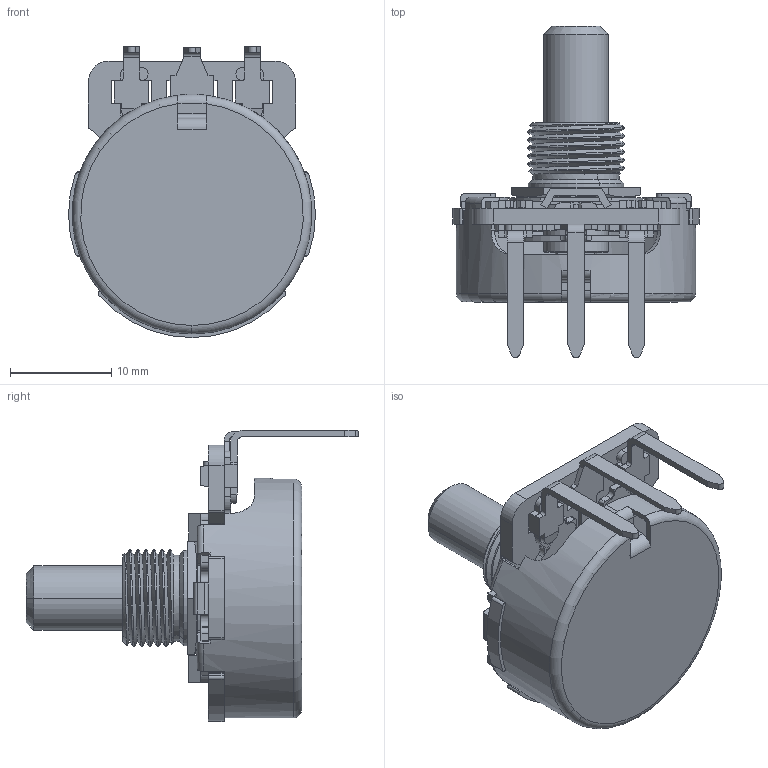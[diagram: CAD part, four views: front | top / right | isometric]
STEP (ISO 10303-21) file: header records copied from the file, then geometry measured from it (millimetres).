
FILE_DESCRIPTION (( 'STEP AP214' ), '1' );
FILE_NAME ('450V220R103A1A5.STEP', '2019-05-27T01:23:15', ( '' ), ( '' ), 'SwSTEP 2.0', 'SolidWorks 2019', '' );
FILE_SCHEMA (( 'AUTOMOTIVE_DESIGN' ));
Length unit declared in the file: millimetre
Products named in the file (10): P45Q_Flat Bottom_45Q54 withFenderTradeMark_NewDetentSetting_07102012; 45C-2T-no lug; 450 element; 450V220R103A1A5; 450B-4; 450A-104G; 4S59848; 450D-5 for V450AEDF; V450AEDF(for 450A-104G); 450F for V450AEDF
Assembly tree (10 placements, depth 3):
  450V220R103A1A5
    P45Q_Flat Bottom_45Q54 withFenderTradeMark_NewDetentSetting_07102012
    V450AEDF(for 450A-104G)
      450A-104G
      450 element
      450F for V450AEDF  x2
      450D-5 for V450AEDF
    45C-2T-no lug
    450B-4
    4S59848
Bounding box: 24.33 x 32.72 x 28.7 mm (x, y, z)
Volume: 2649.4 mm3; surface area: 6370.3 mm2
Topology: 9 solids, 9 shells, 629 faces, 1756 edges, 1145 vertices
Faces by surface type: plane 373, cylinder 213, cone 23, torus 18, bspline 2
Entity records: 20046 total; most frequent: CARTESIAN_POINT 4550, ORIENTED_EDGE 3220, DIRECTION 3150, EDGE_CURVE 1610, AXIS2_PLACEMENT_3D 1057, VERTEX_POINT 1052, LINE 1036, VECTOR 1036
